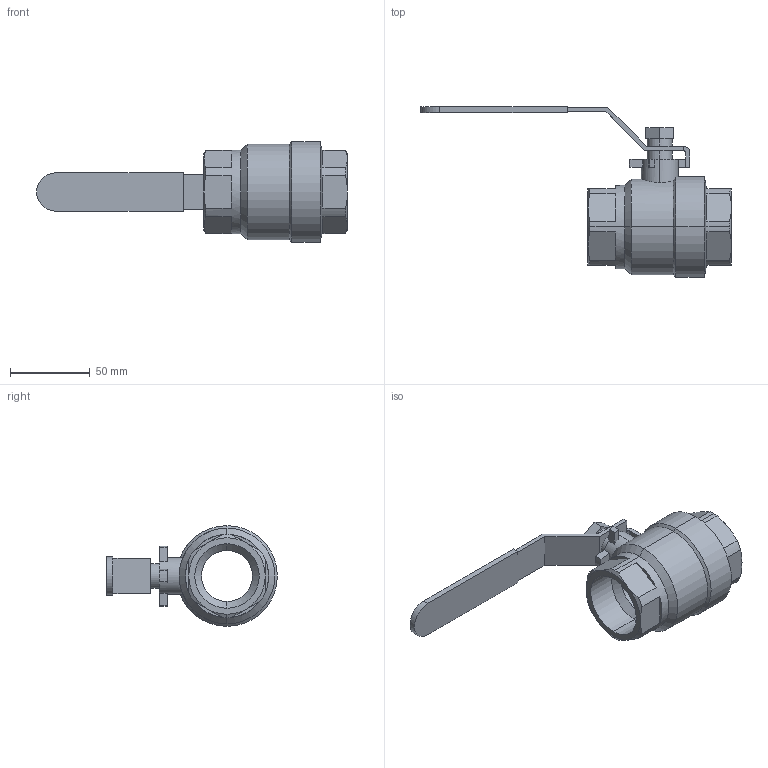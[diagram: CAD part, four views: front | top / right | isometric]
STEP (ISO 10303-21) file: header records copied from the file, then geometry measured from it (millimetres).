
FILE_DESCRIPTION (( 'STEP AP203' ), '1' );
FILE_NAME ('B3.622I032XFVPB0.STEP', '2018-12-14T10:23:22', ( 'dell2' ), ( 'Microsoft' ), 'SwSTEP 2.0', 'SolidWorks 2017', '' );
FILE_SCHEMA (( 'CONFIG_CONTROL_DESIGN' ));
Length unit declared in the file: millimetre
Products named in the file (1): B3.622I032XFVPB0
Bounding box: 195 x 107.1 x 63.2 mm (x, y, z)
Volume: 157529.5 mm3; surface area: 41099.5 mm2
Topology: 1 solids, 1 shells, 119 faces, 299 edges, 187 vertices
Faces by surface type: plane 61, cylinder 33, cone 25
Entity records: 3811 total; most frequent: CARTESIAN_POINT 870, DIRECTION 604, ORIENTED_EDGE 598, EDGE_CURVE 299, AXIS2_PLACEMENT_3D 221, VERTEX_POINT 187, VECTOR 162, LINE 162
